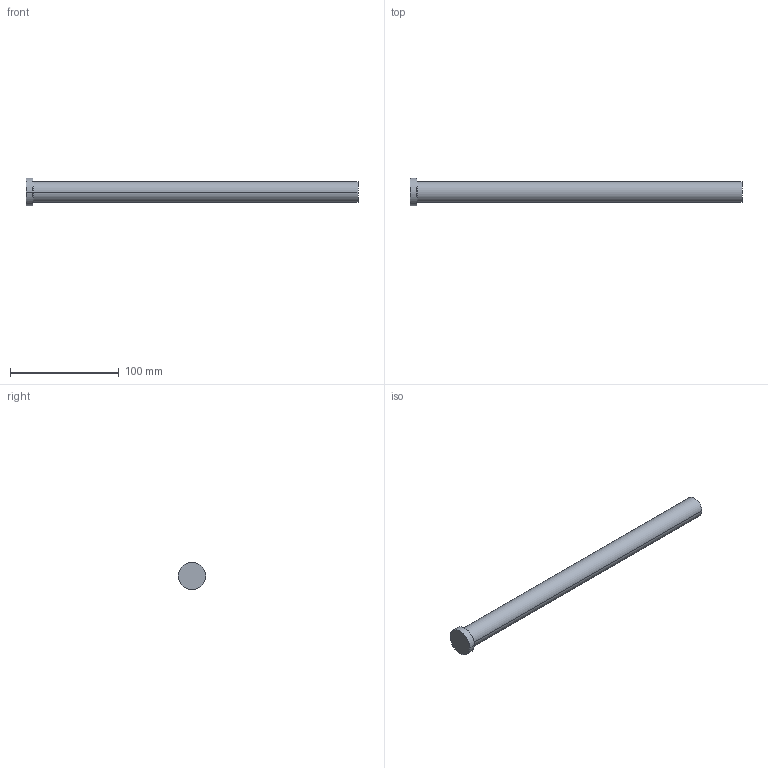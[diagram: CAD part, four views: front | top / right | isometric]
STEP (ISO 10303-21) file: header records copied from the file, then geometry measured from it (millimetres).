
FILE_DESCRIPTION (( 'STEP AP214' ), '1' );
FILE_NAME ('P41-12.STEP', '2020-03-12T12:18:03', ( '' ), ( '' ), 'SwSTEP 2.0', 'SolidWorks 2018', '' );
FILE_SCHEMA (( 'AUTOMOTIVE_DESIGN' ));
Length unit declared in the file: inch
Products named in the file (1): P41-12
Bounding box: 304.8 x 25.4 x 25.4 mm (x, y, z)
Volume: 88176.1 mm3; surface area: 19340.8 mm2
Topology: 1 solids, 1 shells, 13 faces, 24 edges, 14 vertices
Faces by surface type: cone 4, cylinder 4, plane 3, torus 2
Entity records: 366 total; most frequent: DIRECTION 68, CARTESIAN_POINT 52, ORIENTED_EDGE 48, AXIS2_PLACEMENT_3D 30, EDGE_CURVE 24, CIRCLE 16, EDGE_LOOP 14, VERTEX_POINT 14
